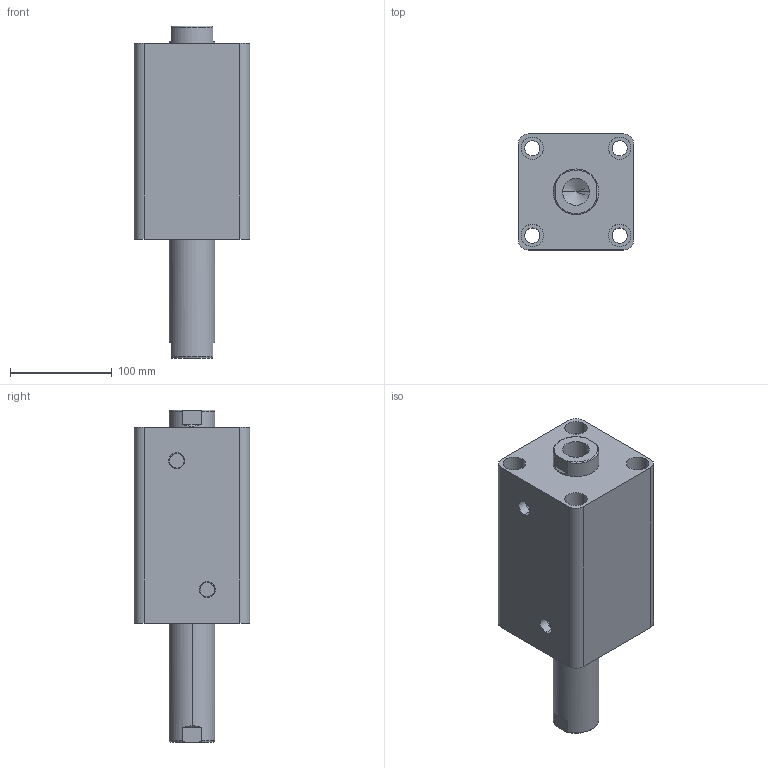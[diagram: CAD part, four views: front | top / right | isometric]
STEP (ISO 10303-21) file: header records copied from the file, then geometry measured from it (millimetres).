
FILE_DESCRIPTION (( 'STEP AP203' ), '1' );
FILE_NAME ('HTB-SW80-100N.STEP', '2019-10-07T10:27:59', ( '微软用户' ), ( '微软中国' ), 'SwSTEP 2.0', 'SolidWorks 2012', '' );
FILE_SCHEMA (( 'CONFIG_CONTROL_DESIGN' ));
Length unit declared in the file: millimetre
Products named in the file (3): HTB-SW80-100N; HTB-SW80-100N活塞杆; HTB-SW80-100掛极
Assembly tree (2 placements, depth 2):
  HTB-SW80-100N
    HTB-SW80-100掛极
    HTB-SW80-100N活塞杆
Bounding box: 114 x 114 x 327 mm (x, y, z)
Volume: 2164266.9 mm3; surface area: 258464.2 mm2
Topology: 2 solids, 2 shells, 100 faces, 228 edges, 146 vertices
Faces by surface type: cylinder 48, plane 32, torus 12, cone 8
Entity records: 3237 total; most frequent: CARTESIAN_POINT 595, DIRECTION 542, ORIENTED_EDGE 448, AXIS2_PLACEMENT_3D 229, EDGE_CURVE 224, VERTEX_POINT 146, EDGE_LOOP 128, CIRCLE 124
